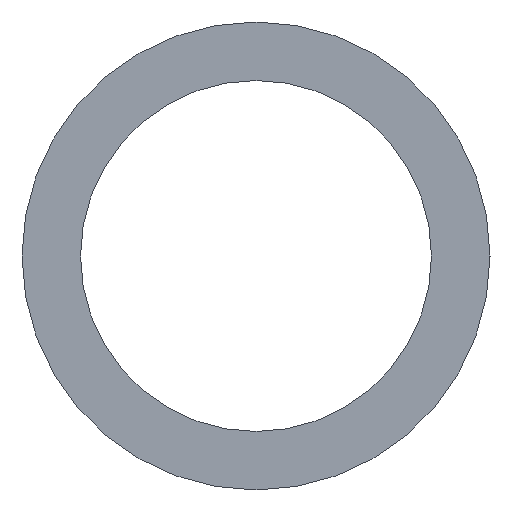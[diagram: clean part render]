
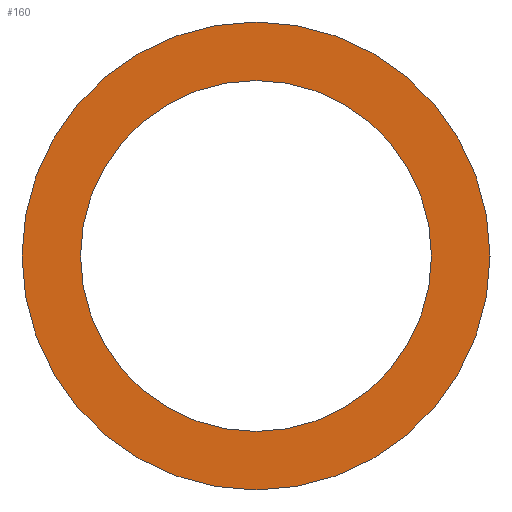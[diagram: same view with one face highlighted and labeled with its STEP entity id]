
A CAD part, left-side view. The second image highlights one B-rep face of the part: STEP entity #160.
In plain terms, the highlighted planar face has unit normal (-1, 0, 0).
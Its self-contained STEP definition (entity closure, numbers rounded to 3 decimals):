
#7 = DIRECTION ( 'NONE',  ( 0., 0., 1. ) ) ;
#12 = EDGE_CURVE ( 'NONE', #209, #81, #112, .T. ) ;
#17 = ORIENTED_EDGE ( 'NONE', *, *, #12, .T. ) ;
#18 = AXIS2_PLACEMENT_3D ( 'NONE', #100, #28, #52 ) ;
#27 = ORIENTED_EDGE ( 'NONE', *, *, #43, .T. ) ;
#28 = DIRECTION ( 'NONE',  ( 1., 0., 0. ) ) ;
#30 = CARTESIAN_POINT ( 'NONE',  ( 0., 0., 0. ) ) ;
#42 = CIRCLE ( 'NONE', #141, 7.5 ) ;
#43 = EDGE_CURVE ( 'NONE', #81, #209, #94, .T. ) ;
#48 = CARTESIAN_POINT ( 'NONE',  ( 0., 0., 10. ) ) ;
#52 = DIRECTION ( 'NONE',  ( 0., 0., -1. ) ) ;
#57 = EDGE_LOOP ( 'NONE', ( #27, #17 ) ) ;
#64 = AXIS2_PLACEMENT_3D ( 'NONE', #159, #67, #235 ) ;
#66 = FACE_OUTER_BOUND ( 'NONE', #57, .T. ) ;
#67 = DIRECTION ( 'NONE',  ( -1., 0., 0. ) ) ;
#68 = CARTESIAN_POINT ( 'NONE',  ( 0., 0., 0. ) ) ;
#81 = VERTEX_POINT ( 'NONE', #48 ) ;
#85 = CARTESIAN_POINT ( 'NONE',  ( 0., 0., 7.5 ) ) ;
#88 = DIRECTION ( 'NONE',  ( -1., 0., 0. ) ) ;
#94 = CIRCLE ( 'NONE', #64, 10. ) ;
#100 = CARTESIAN_POINT ( 'NONE',  ( 0., 7.5, 0. ) ) ;
#101 = ORIENTED_EDGE ( 'NONE', *, *, #130, .F. ) ;
#106 = VERTEX_POINT ( 'NONE', #85 ) ;
#112 = CIRCLE ( 'NONE', #214, 10. ) ;
#116 = EDGE_CURVE ( 'NONE', #219, #106, #42, .T. ) ;
#129 = CIRCLE ( 'NONE', #146, 7.5 ) ;
#130 = EDGE_CURVE ( 'NONE', #106, #219, #129, .T. ) ;
#137 = DIRECTION ( 'NONE',  ( -1., 0., 0. ) ) ;
#141 = AXIS2_PLACEMENT_3D ( 'NONE', #30, #137, #202 ) ;
#142 = CARTESIAN_POINT ( 'NONE',  ( 0., 0., -10. ) ) ;
#146 = AXIS2_PLACEMENT_3D ( 'NONE', #68, #88, #7 ) ;
#159 = CARTESIAN_POINT ( 'NONE',  ( 0., 0., 0. ) ) ;
#160 = ADVANCED_FACE ( 'NONE', ( #231, #66 ), #196, .F. ) ;
#196 = PLANE ( 'NONE',  #18 ) ;
#201 = CARTESIAN_POINT ( 'NONE',  ( 0., 0., 0. ) ) ;
#202 = DIRECTION ( 'NONE',  ( 0., 0., 1. ) ) ;
#204 = ORIENTED_EDGE ( 'NONE', *, *, #116, .F. ) ;
#207 = CARTESIAN_POINT ( 'NONE',  ( 0., 0., -7.5 ) ) ;
#209 = VERTEX_POINT ( 'NONE', #142 ) ;
#214 = AXIS2_PLACEMENT_3D ( 'NONE', #201, #221, #233 ) ;
#219 = VERTEX_POINT ( 'NONE', #207 ) ;
#221 = DIRECTION ( 'NONE',  ( -1., 0., 0. ) ) ;
#231 = FACE_BOUND ( 'NONE', #249, .T. ) ;
#233 = DIRECTION ( 'NONE',  ( 0., 0., 1. ) ) ;
#235 = DIRECTION ( 'NONE',  ( 0., 0., 1. ) ) ;
#249 = EDGE_LOOP ( 'NONE', ( #101, #204 ) ) ;
